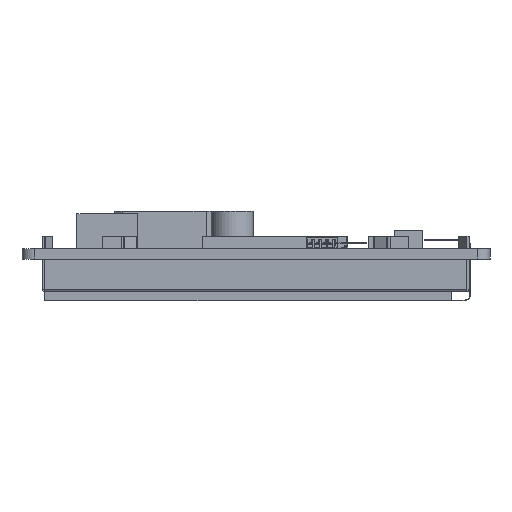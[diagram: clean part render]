
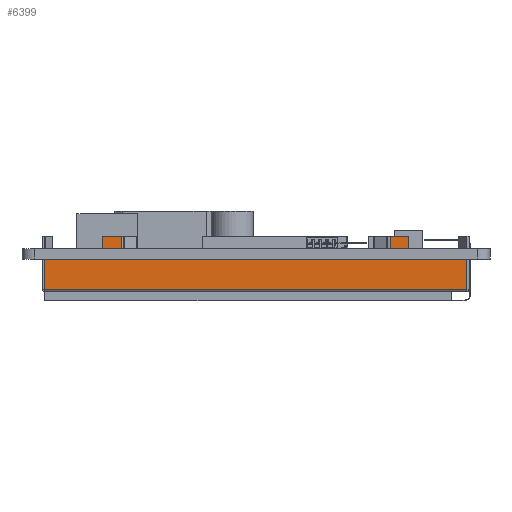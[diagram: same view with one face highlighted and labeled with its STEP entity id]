
A CAD part, left-side view. The second image highlights one B-rep face of the part: STEP entity #6399.
In plain terms, the highlighted planar face has unit normal (-1, 0, 0).
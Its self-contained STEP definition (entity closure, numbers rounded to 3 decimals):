
#4144=PLANE('',#51202);
#6399=ADVANCED_FACE('',(#9136),#4144,.F.);
#9136=FACE_OUTER_BOUND('',#11458,.T.);
#11458=EDGE_LOOP('',(#24340,#24341,#24342,#24343,#24344,#24345,#24346,#24347,
#24348,#24349,#24350,#24351,#24352,#24353,#24354,#24355));
#24340=ORIENTED_EDGE('',*,*,#36190,.T.);
#24341=ORIENTED_EDGE('',*,*,#36191,.F.);
#24342=ORIENTED_EDGE('',*,*,#36192,.F.);
#24343=ORIENTED_EDGE('',*,*,#36193,.T.);
#24344=ORIENTED_EDGE('',*,*,#36194,.T.);
#24345=ORIENTED_EDGE('',*,*,#36195,.T.);
#24346=ORIENTED_EDGE('',*,*,#36188,.T.);
#24347=ORIENTED_EDGE('',*,*,#36196,.F.);
#24348=ORIENTED_EDGE('',*,*,#36197,.T.);
#24349=ORIENTED_EDGE('',*,*,#36198,.F.);
#24350=ORIENTED_EDGE('',*,*,#36199,.F.);
#24351=ORIENTED_EDGE('',*,*,#36200,.T.);
#24352=ORIENTED_EDGE('',*,*,#36182,.T.);
#24353=ORIENTED_EDGE('',*,*,#36201,.F.);
#24354=ORIENTED_EDGE('',*,*,#36202,.F.);
#24355=ORIENTED_EDGE('',*,*,#36203,.T.);
#29807=VERTEX_POINT('',#75731);
#29808=VERTEX_POINT('',#75732);
#29813=VERTEX_POINT('',#75743);
#29814=VERTEX_POINT('',#75745);
#29815=VERTEX_POINT('',#75749);
#29816=VERTEX_POINT('',#75750);
#29817=VERTEX_POINT('',#75752);
#29818=VERTEX_POINT('',#75754);
#29819=VERTEX_POINT('',#75756);
#29820=VERTEX_POINT('',#75758);
#29821=VERTEX_POINT('',#75761);
#29822=VERTEX_POINT('',#75763);
#29823=VERTEX_POINT('',#75765);
#29824=VERTEX_POINT('',#75767);
#29825=VERTEX_POINT('',#75770);
#29826=VERTEX_POINT('',#75772);
#36182=EDGE_CURVE('',#29807,#29808,#42028,.T.);
#36188=EDGE_CURVE('',#29814,#29813,#42034,.T.);
#36190=EDGE_CURVE('',#29815,#29816,#42036,.T.);
#36191=EDGE_CURVE('',#29817,#29816,#42037,.T.);
#36192=EDGE_CURVE('',#29818,#29817,#42038,.T.);
#36193=EDGE_CURVE('',#29818,#29819,#42039,.T.);
#36194=EDGE_CURVE('',#29819,#29820,#42040,.T.);
#36195=EDGE_CURVE('',#29820,#29814,#42041,.T.);
#36196=EDGE_CURVE('',#29821,#29813,#42042,.T.);
#36197=EDGE_CURVE('',#29821,#29822,#42043,.T.);
#36198=EDGE_CURVE('',#29823,#29822,#42044,.T.);
#36199=EDGE_CURVE('',#29824,#29823,#42045,.T.);
#36200=EDGE_CURVE('',#29824,#29807,#42046,.T.);
#36201=EDGE_CURVE('',#29825,#29808,#42047,.T.);
#36202=EDGE_CURVE('',#29826,#29825,#42048,.T.);
#36203=EDGE_CURVE('',#29826,#29815,#42049,.T.);
#42028=LINE('',#75730,#47755);
#42034=LINE('',#75744,#47761);
#42036=LINE('',#75748,#47763);
#42037=LINE('',#75751,#47764);
#42038=LINE('',#75753,#47765);
#42039=LINE('',#75755,#47766);
#42040=LINE('',#75757,#47767);
#42041=LINE('',#75759,#47768);
#42042=LINE('',#75760,#47769);
#42043=LINE('',#75762,#47770);
#42044=LINE('',#75764,#47771);
#42045=LINE('',#75766,#47772);
#42046=LINE('',#75768,#47773);
#42047=LINE('',#75769,#47774);
#42048=LINE('',#75771,#47775);
#42049=LINE('',#75773,#47776);
#47755=VECTOR('',#62120,1.);
#47761=VECTOR('',#62128,1.);
#47763=VECTOR('',#62132,1.);
#47764=VECTOR('',#62133,1.);
#47765=VECTOR('',#62134,1.);
#47766=VECTOR('',#62135,1.);
#47767=VECTOR('',#62136,1.);
#47768=VECTOR('',#62137,1.);
#47769=VECTOR('',#62138,1.);
#47770=VECTOR('',#62139,1.);
#47771=VECTOR('',#62140,1.);
#47772=VECTOR('',#62141,1.);
#47773=VECTOR('',#62142,1.);
#47774=VECTOR('',#62143,1.);
#47775=VECTOR('',#62144,1.);
#47776=VECTOR('',#62145,1.);
#51202=AXIS2_PLACEMENT_3D('',#75774,#62146,#62147);
#62120=DIRECTION('',(0.,1.,0.));
#62128=DIRECTION('',(0.,1.,0.));
#62132=DIRECTION('',(0.,1.,0.));
#62133=DIRECTION('',(0.,0.,-1.));
#62134=DIRECTION('',(0.,-1.,0.));
#62135=DIRECTION('',(0.,0.,-1.));
#62136=DIRECTION('',(0.,1.,0.));
#62137=DIRECTION('',(0.,0.,-1.));
#62138=DIRECTION('',(0.,0.,-1.));
#62139=DIRECTION('',(0.,-1.,0.));
#62140=DIRECTION('',(0.,0.,-1.));
#62141=DIRECTION('',(0.,-1.,0.));
#62142=DIRECTION('',(0.,0.,-1.));
#62143=DIRECTION('',(0.,0.,1.));
#62144=DIRECTION('',(0.,1.,0.));
#62145=DIRECTION('',(0.,0.,1.));
#62146=DIRECTION('',(1.,0.,0.));
#62147=DIRECTION('',(0.,-1.,0.));
#75730=CARTESIAN_POINT('',(67.65,-14.395,-1.6));
#75731=CARTESIAN_POINT('',(67.65,43.765,-1.6));
#75732=CARTESIAN_POINT('',(67.65,53.005,-1.6));
#75743=CARTESIAN_POINT('',(67.65,40.765,-1.6));
#75744=CARTESIAN_POINT('',(67.65,-14.395,-1.6));
#75745=CARTESIAN_POINT('',(67.65,-2.155,-1.6));
#75748=CARTESIAN_POINT('',(67.65,-14.395,-1.6));
#75749=CARTESIAN_POINT('',(67.65,-14.395,-1.6));
#75750=CARTESIAN_POINT('',(67.65,-5.155,-1.6));
#75751=CARTESIAN_POINT('',(67.65,-5.155,0.));
#75752=CARTESIAN_POINT('',(67.65,-5.155,2.));
#75753=CARTESIAN_POINT('',(67.65,-2.19,2.));
#75754=CARTESIAN_POINT('',(67.65,-2.19,2.));
#75755=CARTESIAN_POINT('',(67.65,-2.19,2.));
#75756=CARTESIAN_POINT('',(67.65,-2.19,0.));
#75757=CARTESIAN_POINT('',(67.65,-5.155,0.));
#75758=CARTESIAN_POINT('',(67.65,-2.155,0.));
#75759=CARTESIAN_POINT('',(67.65,-2.155,0.));
#75760=CARTESIAN_POINT('',(67.65,40.765,0.));
#75761=CARTESIAN_POINT('',(67.65,40.765,0.));
#75762=CARTESIAN_POINT('',(67.65,43.765,0.));
#75763=CARTESIAN_POINT('',(67.65,40.754,0.));
#75764=CARTESIAN_POINT('',(67.65,40.754,2.));
#75765=CARTESIAN_POINT('',(67.65,40.754,2.));
#75766=CARTESIAN_POINT('',(67.65,43.765,2.));
#75767=CARTESIAN_POINT('',(67.65,43.765,2.));
#75768=CARTESIAN_POINT('',(67.65,43.765,0.));
#75769=CARTESIAN_POINT('',(67.65,53.005,-6.4));
#75770=CARTESIAN_POINT('',(67.65,53.005,-6.4));
#75771=CARTESIAN_POINT('',(67.65,-14.395,-6.4));
#75772=CARTESIAN_POINT('',(67.65,-14.395,-6.4));
#75773=CARTESIAN_POINT('',(67.65,-14.395,-6.4));
#75774=CARTESIAN_POINT('',(67.65,-14.395,-6.4));
